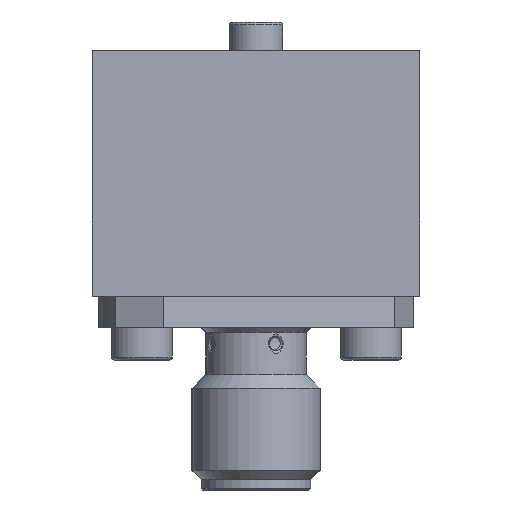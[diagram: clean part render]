
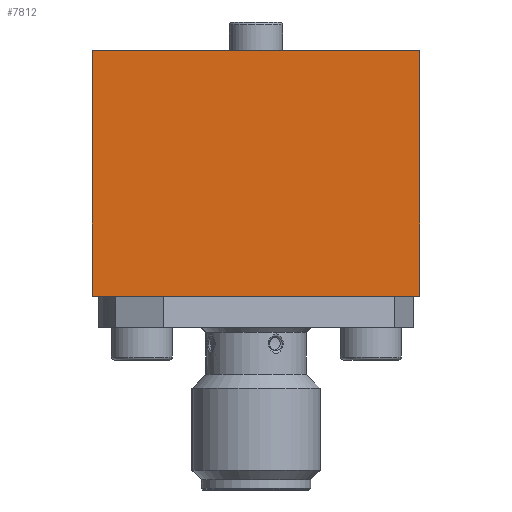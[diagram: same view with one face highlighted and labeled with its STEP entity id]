
A CAD part, left-side view. The second image highlights one B-rep face of the part: STEP entity #7812.
In plain terms, the highlighted planar face has unit normal (-1, 0, 0).
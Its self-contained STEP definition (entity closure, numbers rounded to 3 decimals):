
#493=LINE('',#10723,#773);
#498=LINE('',#10733,#778);
#500=LINE('',#10737,#780);
#501=LINE('',#10738,#781);
#773=VECTOR('',#9103,1000.);
#778=VECTOR('',#9112,1000.);
#780=VECTOR('',#9116,1000.);
#781=VECTOR('',#9117,1000.);
#1028=PLANE('',#8281);
#1476=ORIENTED_EDGE('',*,*,#2655,.F.);
#1477=ORIENTED_EDGE('',*,*,#2648,.F.);
#1478=ORIENTED_EDGE('',*,*,#2656,.T.);
#1479=ORIENTED_EDGE('',*,*,#2653,.T.);
#2648=EDGE_CURVE('',#3273,#3271,#493,.T.);
#2653=EDGE_CURVE('',#3277,#3276,#498,.T.);
#2655=EDGE_CURVE('',#3271,#3276,#500,.T.);
#2656=EDGE_CURVE('',#3273,#3277,#501,.T.);
#3271=VERTEX_POINT('',#10718);
#3273=VERTEX_POINT('',#10722);
#3276=VERTEX_POINT('',#10732);
#3277=VERTEX_POINT('',#10734);
#3943=EDGE_LOOP('',(#1476,#1477,#1478,#1479));
#4525=FACE_BOUND('',#3943,.T.);
#7812=ADVANCED_FACE('',(#4525),#1028,.T.);
#8281=AXIS2_PLACEMENT_3D('',#10736,#9114,#9115);
#9103=DIRECTION('',(0.,0.,1.));
#9112=DIRECTION('',(0.,0.,1.));
#9114=DIRECTION('',(-1.,0.,0.));
#9115=DIRECTION('',(0.,0.,1.));
#9116=DIRECTION('',(0.,-1.,0.));
#9117=DIRECTION('',(0.,-1.,0.));
#10718=CARTESIAN_POINT('',(-41.,8.,0.));
#10722=CARTESIAN_POINT('',(-41.,8.,-12.));
#10723=CARTESIAN_POINT('',(-41.,8.,-12.));
#10732=CARTESIAN_POINT('',(-41.,-8.,0.));
#10733=CARTESIAN_POINT('',(-41.,-8.,-12.));
#10734=CARTESIAN_POINT('',(-41.,-8.,-12.));
#10736=CARTESIAN_POINT('',(-41.,8.,-12.));
#10737=CARTESIAN_POINT('',(-41.,8.,0.));
#10738=CARTESIAN_POINT('',(-41.,8.,-12.));
